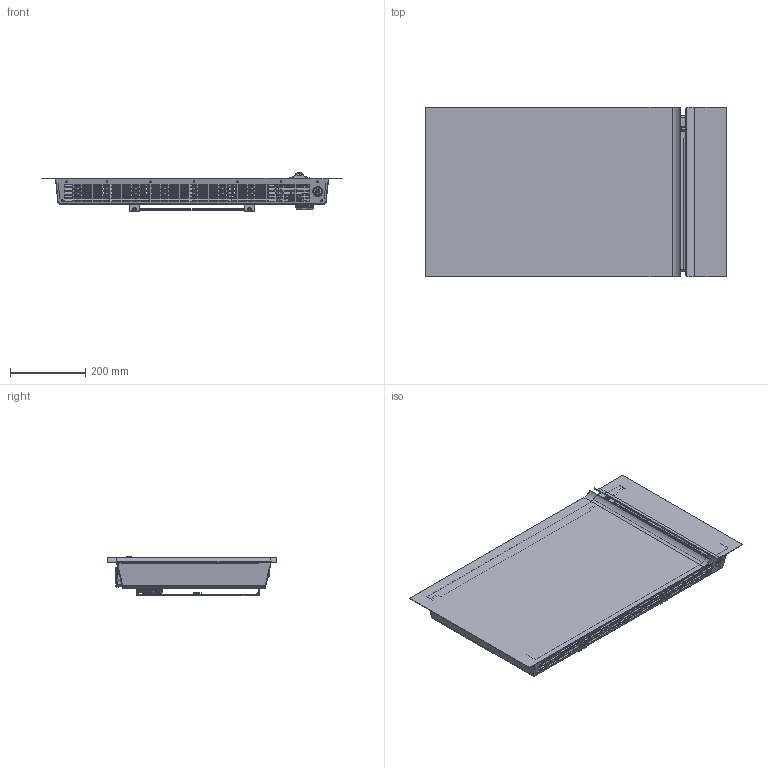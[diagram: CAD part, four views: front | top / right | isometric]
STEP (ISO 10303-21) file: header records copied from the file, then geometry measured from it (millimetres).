
FILE_DESCRIPTION(('FreeCAD Model'),'2;1');
FILE_NAME('Open CASCADE Shape Model','2026-06-03T13:00:36',(''),(''), 'Open CASCADE STEP processor 7.8','FreeCAD','Unknown');
FILE_SCHEMA(('AUTOMOTIVE_DESIGN { 1 0 10303 214 1 1 1 1 }'));
Length unit declared in the file: millimetre
Products named in the file (24): Kyoto_10; RMV_POSTERIORE-1000W; RMV_GR-SCATOLA-COMANDI_ASM; RMV_FONDO-SCATOLA-COMANDI; RMV_COPERCHIO-SCATOLA-COMANDI; RMV_SUPPORTO-SONDA; RMV_GR-FRONTALE_MET_1000W_ASM; RMV_FRONTALE-DX; RMV_FRONTALE-SX_1000W; RMV_BARRA-FISSAGGIO-SUP_1000W; RMV_SUPPORTO-PIR-MET; RMV_GR-PIR-BOARD_ASM; RMV_PIR-BOARD; RMV_GR-DISPLAY_ASM; RMV_PROTEZIONE-TRASPARE-DISPLAY; RMV_COPERTURA-SUPERIORE-COMANDI; SOLID016; RMV_GR-SUPPORTO-MURALE_07-10_ASM; KLI_TRAVERSA-SUPPORTO_MIN; RMV_GR-ASTA-SUPPORTO-MURALE_ASM; RMV_STAFFA-SUPPORTO-MURALE; RMV_GR-ASTA-SUPPORTO-MURALE_ASM001; RMV_STAFFA-SUPPORTO-MURALE001; WFB_COPERCHIO
Assembly tree (23 placements, depth 4):
  Kyoto_10
    RMV_POSTERIORE-1000W
    RMV_GR-SCATOLA-COMANDI_ASM
      RMV_FONDO-SCATOLA-COMANDI
      RMV_COPERCHIO-SCATOLA-COMANDI
    RMV_SUPPORTO-SONDA
    RMV_GR-FRONTALE_MET_1000W_ASM
      RMV_FRONTALE-DX
      RMV_FRONTALE-SX_1000W
      RMV_BARRA-FISSAGGIO-SUP_1000W
    RMV_SUPPORTO-PIR-MET
    RMV_GR-PIR-BOARD_ASM
      RMV_PIR-BOARD
    RMV_GR-DISPLAY_ASM
      RMV_PROTEZIONE-TRASPARE-DISPLAY
    RMV_COPERTURA-SUPERIORE-COMANDI
      SOLID016
    RMV_GR-SUPPORTO-MURALE_07-10_ASM
      KLI_TRAVERSA-SUPPORTO_MIN
      RMV_GR-ASTA-SUPPORTO-MURALE_ASM
        RMV_STAFFA-SUPPORTO-MURALE
      RMV_GR-ASTA-SUPPORTO-MURALE_ASM001
        RMV_STAFFA-SUPPORTO-MURALE001
    WFB_COPERCHIO
Bounding box: 800 x 450 x 104.8 mm (x, y, z)
Volume: 1119871.4 mm3; surface area: 1894356.2 mm2
Topology: 15 solids, 15 shells, 5190 faces, 14300 edges, 9184 vertices
Faces by surface type: plane 3329, cylinder 967, bspline 467, cone 275, torus 106, sphere 28, extrusion 18
Entity records: 201211 total; most frequent: CARTESIAN_POINT 76108, ORIENTED_EDGE 28594, DIRECTION 21670, EDGE_CURVE 14297, VERTEX_POINT 9184, VECTOR 8482, LINE 8464, AXIS2_PLACEMENT_3D 6594
